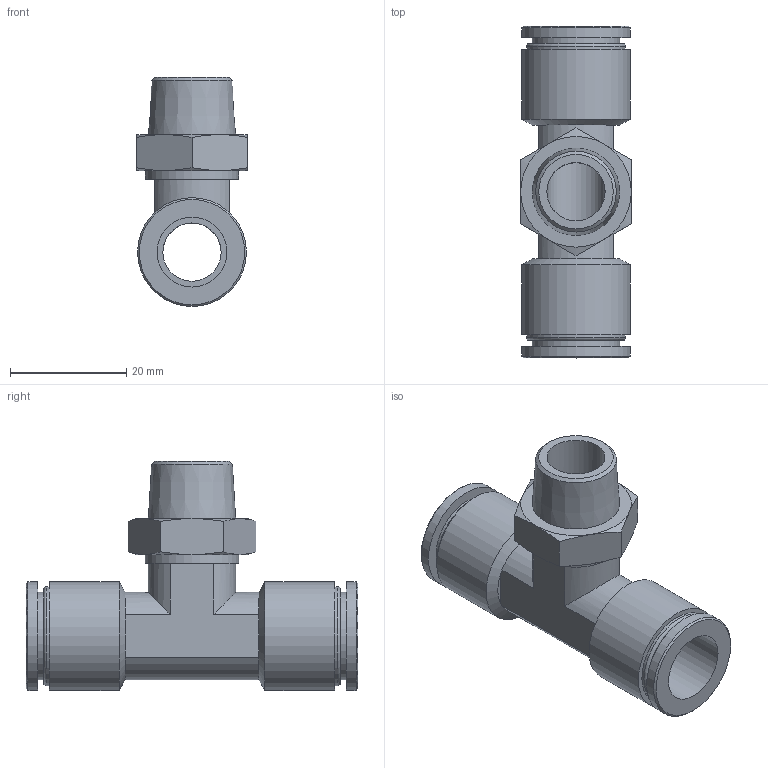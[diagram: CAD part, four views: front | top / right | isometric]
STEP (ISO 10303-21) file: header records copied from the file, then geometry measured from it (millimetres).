
FILE_DESCRIPTION(/* description */ (''),/* implementation_level */ '2;1');
FILE_NAME(/* name */ 'LXH31 0012 B3.stp',/* time_stamp */ '2026-04-22T20:49:48+02:00',/* author */ ('freju'),/* organization */ (''),/* preprocessor_version */ 'ST-DEVELOPER v20.1',/* originating_system */ 'Autodesk Inventor 2026',/* authorisation */ '');
FILE_SCHEMA (('AUTOMOTIVE_DESIGN { 1 0 10303 214 3 1 1 }'));
Length unit declared in the file: millimetre
Products named in the file (1): LXH31 0012 B3
Bounding box: 19 x 57 x 39.35 mm (x, y, z)
Volume: 9685 mm3; surface area: 8083.3 mm2
Topology: 1 solids, 1 shells, 68 faces, 145 edges, 89 vertices
Faces by surface type: plane 26, cylinder 22, cone 18, torus 2
Full cylindrical faces by diameter (mm): 10 x2, 12 x2, 15 x2, 16 x1, 17 x2, 18.7 x4
Entity records: 1863 total; most frequent: CARTESIAN_POINT 351, DIRECTION 330, ORIENTED_EDGE 290, EDGE_CURVE 145, AXIS2_PLACEMENT_3D 140, VERTEX_POINT 89, EDGE_LOOP 82, FACE_OUTER_BOUND 68
